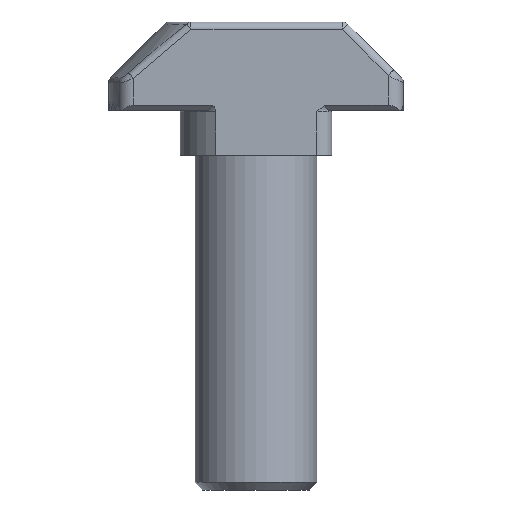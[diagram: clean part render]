
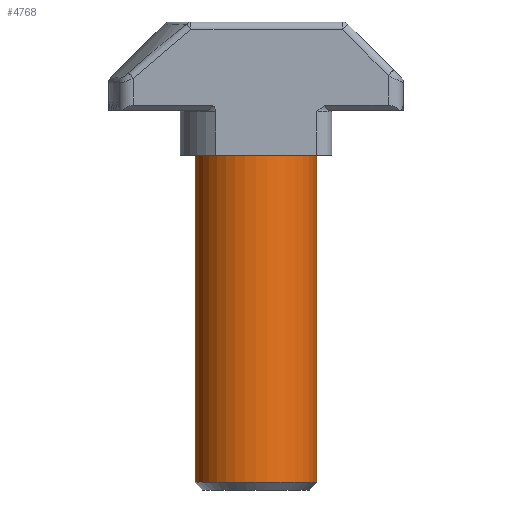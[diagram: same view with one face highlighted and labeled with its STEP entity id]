
A CAD part, front view. The second image highlights one B-rep face of the part: STEP entity #4768.
In plain terms, the highlighted cylindrical face has radius 4 mm (diameter 8 mm), a partial arc.
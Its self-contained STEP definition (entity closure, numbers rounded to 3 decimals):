
#207 = VERTEX_POINT ( 'NONE', #6089 ) ;
#409 = EDGE_CURVE ( 'NONE', #6275, #5049, #5707, .T. ) ;
#766 = DIRECTION ( 'NONE',  ( 0., 0., 1. ) ) ;
#937 = DIRECTION ( 'NONE',  ( 0., 0., 1. ) ) ;
#1257 = DIRECTION ( 'NONE',  ( 0., 0., 1. ) ) ;
#1294 = CARTESIAN_POINT ( 'NONE',  ( -4., 0., -2.9 ) ) ;
#1520 = DIRECTION ( 'NONE',  ( 0., 0., 1. ) ) ;
#2023 = AXIS2_PLACEMENT_3D ( 'NONE', #4382, #937, #4938 ) ;
#2387 = ORIENTED_EDGE ( 'NONE', *, *, #6666, .T. ) ;
#2891 = CYLINDRICAL_SURFACE ( 'NONE', #3502, 4. ) ;
#3199 = DIRECTION ( 'NONE',  ( 1., 0., 0. ) ) ;
#3502 = AXIS2_PLACEMENT_3D ( 'NONE', #4335, #3772, #3199 ) ;
#3626 = FACE_OUTER_BOUND ( 'NONE', #7231, .T. ) ;
#3764 = AXIS2_PLACEMENT_3D ( 'NONE', #4202, #766, #4756 ) ;
#3772 = DIRECTION ( 'NONE',  ( 0., 0., 1. ) ) ;
#4202 = CARTESIAN_POINT ( 'NONE',  ( 0., 0., -2.9 ) ) ;
#4331 = CIRCLE ( 'NONE', #2023, 4. ) ;
#4335 = CARTESIAN_POINT ( 'NONE',  ( 0., 0., -24.917 ) ) ;
#4382 = CARTESIAN_POINT ( 'NONE',  ( 0., 0., -24.417 ) ) ;
#4424 = VECTOR ( 'NONE', #1520, 1000. ) ;
#4658 = CARTESIAN_POINT ( 'NONE',  ( 4., 0., -2.9 ) ) ;
#4756 = DIRECTION ( 'NONE',  ( -1., 0., 0. ) ) ;
#4768 = ADVANCED_FACE ( 'NONE', ( #3626 ), #2891, .T. ) ;
#4819 = EDGE_CURVE ( 'NONE', #207, #6121, #7266, .T. ) ;
#4938 = DIRECTION ( 'NONE',  ( -1., 0., 0. ) ) ;
#4941 = CARTESIAN_POINT ( 'NONE',  ( -4., 0., -24.917 ) ) ;
#4947 = CARTESIAN_POINT ( 'NONE',  ( 4., 0., -24.417 ) ) ;
#5049 = VERTEX_POINT ( 'NONE', #4658 ) ;
#5152 = EDGE_CURVE ( 'NONE', #6121, #5049, #6195, .T. ) ;
#5270 = CARTESIAN_POINT ( 'NONE',  ( 4., 0., -24.917 ) ) ;
#5707 = LINE ( 'NONE', #5270, #6847 ) ;
#6089 = CARTESIAN_POINT ( 'NONE',  ( -4., 0., -24.417 ) ) ;
#6121 = VERTEX_POINT ( 'NONE', #1294 ) ;
#6195 = CIRCLE ( 'NONE', #3764, 4. ) ;
#6275 = VERTEX_POINT ( 'NONE', #4947 ) ;
#6487 = ORIENTED_EDGE ( 'NONE', *, *, #409, .T. ) ;
#6666 = EDGE_CURVE ( 'NONE', #207, #6275, #4331, .T. ) ;
#6820 = ORIENTED_EDGE ( 'NONE', *, *, #4819, .F. ) ;
#6847 = VECTOR ( 'NONE', #1257, 1000. ) ;
#7231 = EDGE_LOOP ( 'NONE', ( #6820, #2387, #6487, #7271 ) ) ;
#7266 = LINE ( 'NONE', #4941, #4424 ) ;
#7271 = ORIENTED_EDGE ( 'NONE', *, *, #5152, .F. ) ;
